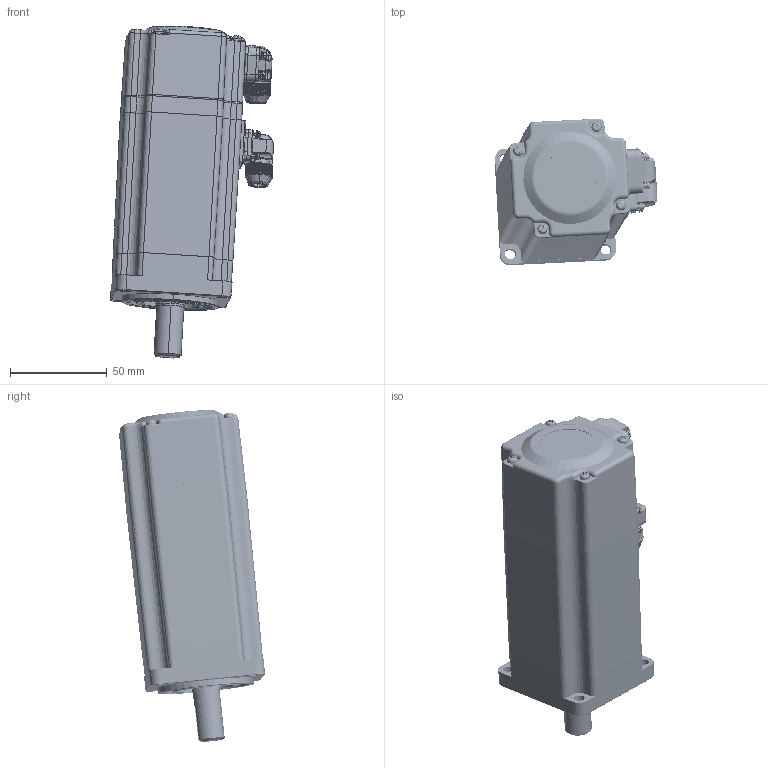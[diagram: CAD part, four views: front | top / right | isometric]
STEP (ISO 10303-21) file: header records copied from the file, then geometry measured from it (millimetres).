
FILE_DESCRIPTION((''),'2;1');
FILE_NAME('60-400W','2017-05-26T',('Administrator'),(''),'PRO/ENGINEER BY PARAMETRIC TECHNOLOGY CORPORATION, 2010280','PRO/ENGINEER BY PARAMETRIC TECHNOLOGY CORPORATION, 2010280','');
FILE_SCHEMA(('CONFIG_CONTROL_DESIGN'));
Products named in the file (1): 60-400W
Bounding box: 84.1 x 75.45 x 171.59 mm (x, y, z)
Volume: 348227 mm3; surface area: 75405.9 mm2
Topology: 14 solids, 57 shells, 7929 faces, 19862 edges, 11811 vertices
Faces by surface type: plane 4484, cylinder 1384, bspline 1144, cone 475, sphere 178, torus 166, extrusion 85, revolution 13
Entity records: 297183 total; most frequent: CARTESIAN_POINT 119358, ORIENTED_EDGE 39120, DIRECTION 32650, EDGE_CURVE 19680, VECTOR 12675, LINE 12590, VERTEX_POINT 11810, AXIS2_PLACEMENT_3D 9981
